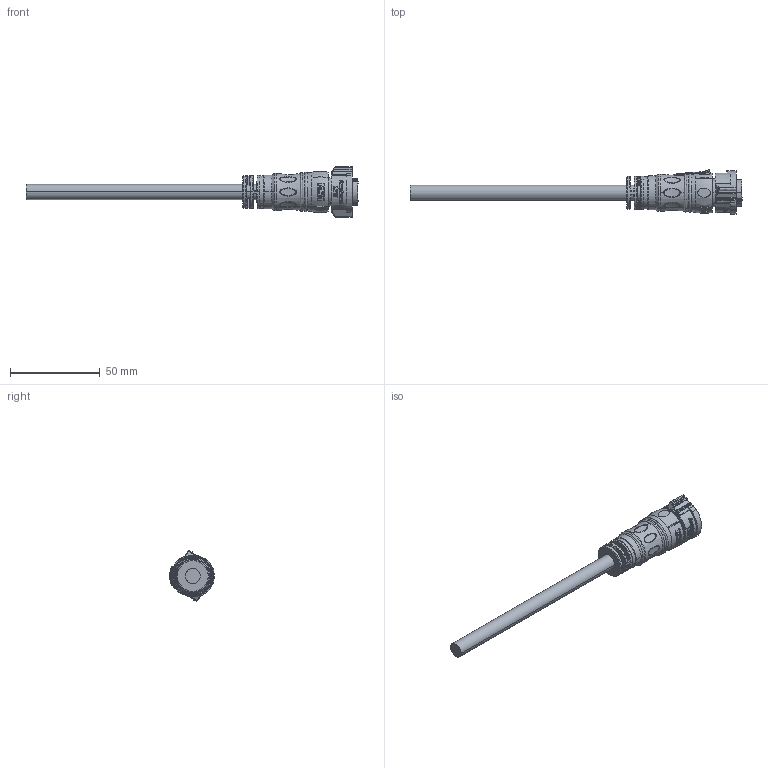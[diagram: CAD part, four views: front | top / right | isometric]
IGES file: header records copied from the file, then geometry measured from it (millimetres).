
Start section:  PTC IGES file: cb-06affm-ql8dxx_sw0001.igs
Global section: file name: cb-06affm-ql8dxx_sw0001.igs; native system: Creo Parametric by Parametric Technology Corporation; preprocessor: 2013050; author: KS5230; organization: Unknown; date: 20160808.155055; units: millimetre
Bounding box: 185.2 x 24.88 x 28 mm (x, y, z)
Volume: 25876.5 mm3; surface area: 12499.2 mm2
Topology: 2 solids, 3 shells, 1164 faces, 3057 edges, 1961 vertices
Faces by surface type: bspline 667, revolution 301, extrusion 196
